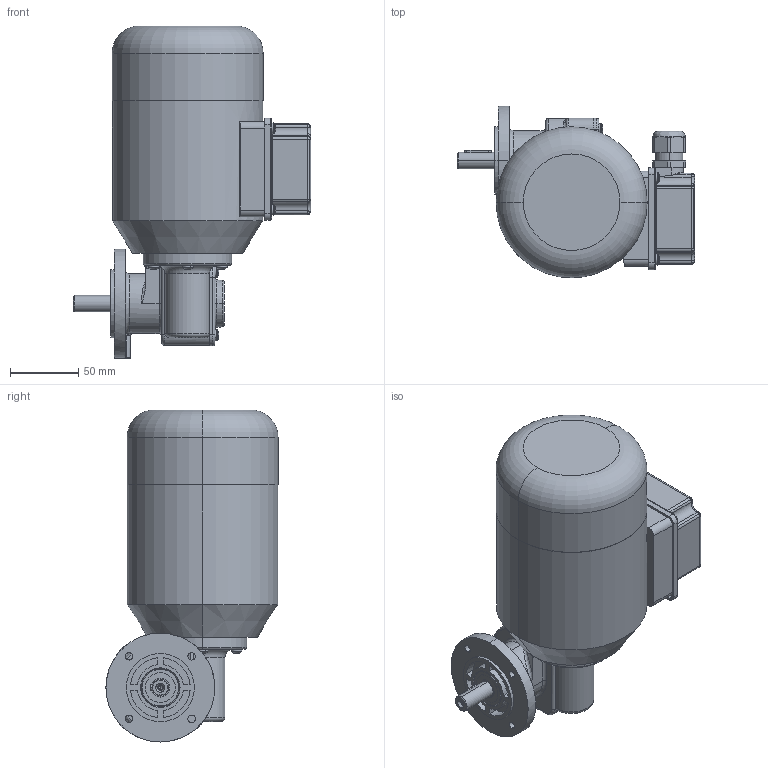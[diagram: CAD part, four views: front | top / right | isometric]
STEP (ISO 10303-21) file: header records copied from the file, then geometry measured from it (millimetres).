
FILE_DESCRIPTION (( 'STEP AP214' ), '1' );
FILE_NAME ('SN5FR_90W_Drehstrom-Motor_D.STEP', '2022-03-14T15:39:30', ( '' ), ( '' ), 'SwSTEP 2.0', 'SolidWorks 2019', '' );
FILE_SCHEMA (( 'AUTOMOTIVE_DESIGN' ));
Length unit declared in the file: millimetre
Products named in the file (10): 05F-W-002_3D_Export; 05FR-D-001_3D_Export; pan head cross recess screw_din_DIN EN ISO 7045 - M4 x 12 - Z - 12C; SN5FR_90W_Drehstrom-Motor_D; pan head cross recess screw_din_DIN EN ISO 7045 - M4 x 16 - Z - 16C; NBR_WDR_12x28x7; SN5FR_3D_Export_Standard 05F-W-002; PF_A4x4x20; 05-M-150 I 90W_1400Upm; 05FR-G-001_3D_Export
Assembly tree (14 placements, depth 3):
  SN5FR_90W_Drehstrom-Motor_D
    SN5FR_3D_Export_Standard 05F-W-002
      05FR-G-001_3D_Export
      05FR-D-001_3D_Export
      05F-W-002_3D_Export
      NBR_WDR_12x28x7
      PF_A4x4x20
      pan head cross recess screw_din_DIN EN ISO 7045 - M4 x 16 - Z - 16C  x3
      pan head cross recess screw_din_DIN EN ISO 7045 - M4 x 12 - Z - 12C  x4
    05-M-150 I 90W_1400Upm
Bounding box: 174.4 x 126.5 x 244 mm (x, y, z)
Volume: 1994016.9 mm3; surface area: 157595.8 mm2
Topology: 15 solids, 15 shells, 970 faces, 2463 edges, 1542 vertices
Faces by surface type: plane 336, cylinder 269, cone 144, torus 122, bspline 59, sphere 40
Entity records: 27333 total; most frequent: CARTESIAN_POINT 7488, DIRECTION 4158, ORIENTED_EDGE 4028, EDGE_CURVE 2014, AXIS2_PLACEMENT_3D 1675, VERTEX_POINT 1287, CIRCLE 916, EDGE_LOOP 879
